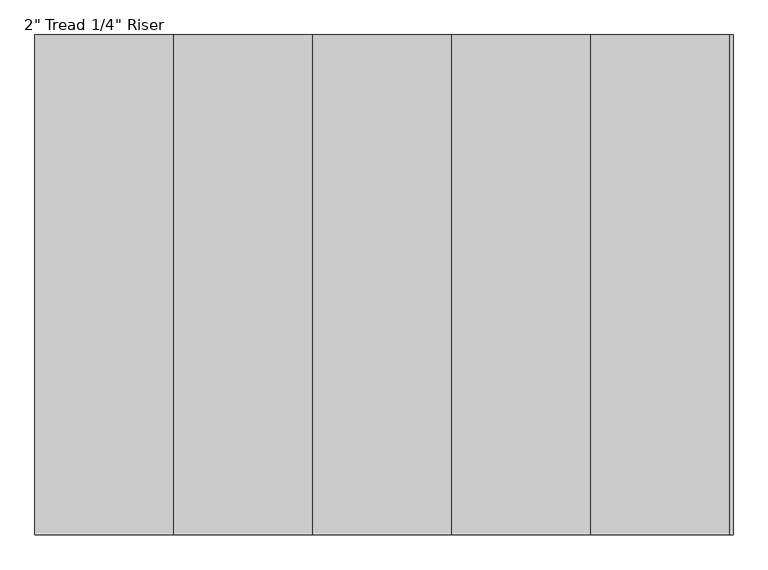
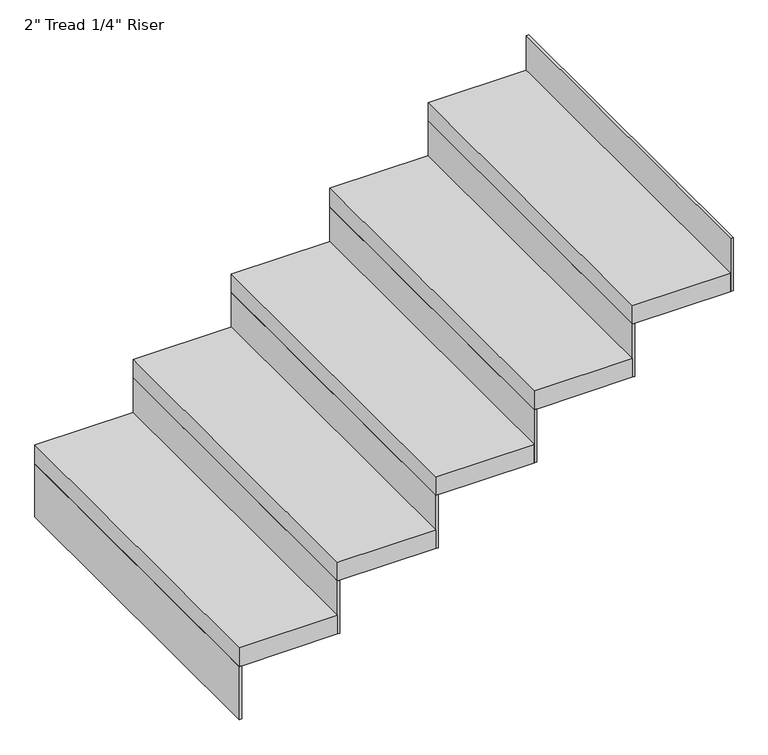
"""IFC4 building model written with IfcOpenShell, lengths in millimetres: stair flight geometry."""

from ifc_helpers import new_model, si_unit, frame, origin, place, context, project, spatial, polyline, outline, extrude, source, transform, mapped, element, save


def stair_flight_b01917b2(model_context):
    return source(origin(), model_context, "Body", "SweptSolid", [
        extrude(outline(polyline([(162833.3711992, -18859.8846057), (162827.0211992, -18859.8846057), (162827.0211992, -17945.4846057), (162833.3711992, -17945.4846057), (162833.3711992, -18859.8846057)])), frame((0.0, 0.0, 2126.3428571), z_axis=(0.0, 0.0, 1.0), x_axis=(1.0, 0.0, 0.0)), (0.0, 0.0, 1.0), 145.1428571),
        extrude(outline(polyline([(163081.0211992, -17945.4846057), (163081.0211992, -18859.8846057), (162827.0211992, -18859.8846057), (162827.0211992, -17945.4846057), (163081.0211992, -17945.4846057)])), frame((0.0, 0.0, 2271.4857143), z_axis=(0.0, 0.0, 1.0), x_axis=(1.0, 0.0, 0.0)), (0.0, 0.0, 1.0), 50.8),
        extrude(outline(polyline([(163087.3711992, -18859.8846057), (163081.0211992, -18859.8846057), (163081.0211992, -17945.4846057), (163087.3711992, -17945.4846057), (163087.3711992, -18859.8846057)])), frame((0.0, 0.0, 2271.4857143), z_axis=(0.0, 0.0, 1.0), x_axis=(1.0, 0.0, 0.0)), (0.0, 0.0, 1.0), 145.1428571),
        extrude(outline(polyline([(163335.0211992, -17945.4846057), (163335.0211992, -18859.8846057), (163081.0211992, -18859.8846057), (163081.0211992, -17945.4846057), (163335.0211992, -17945.4846057)])), frame((0.0, 0.0, 2416.6285714), z_axis=(0.0, 0.0, 1.0), x_axis=(1.0, 0.0, 0.0)), (0.0, 0.0, 1.0), 50.8),
        extrude(outline(polyline([(163341.3711992, -18859.8846057), (163335.0211992, -18859.8846057), (163335.0211992, -17945.4846057), (163341.3711992, -17945.4846057), (163341.3711992, -18859.8846057)])), frame((0.0, 0.0, 2416.6285714), z_axis=(0.0, 0.0, 1.0), x_axis=(1.0, 0.0, 0.0)), (0.0, 0.0, 1.0), 145.1428571),
        extrude(outline(polyline([(163589.0211992, -17945.4846057), (163589.0211992, -18859.8846057), (163335.0211992, -18859.8846057), (163335.0211992, -17945.4846057), (163589.0211992, -17945.4846057)])), frame((0.0, 0.0, 2561.7714286), z_axis=(0.0, 0.0, 1.0), x_axis=(1.0, 0.0, 0.0)), (0.0, 0.0, 1.0), 50.8),
        extrude(outline(polyline([(163595.3711992, -18859.8846057), (163589.0211992, -18859.8846057), (163589.0211992, -17945.4846057), (163595.3711992, -17945.4846057), (163595.3711992, -18859.8846057)])), frame((0.0, 0.0, 2561.7714286), z_axis=(0.0, 0.0, 1.0), x_axis=(1.0, 0.0, 0.0)), (0.0, 0.0, 1.0), 145.1428571),
        extrude(outline(polyline([(163843.0211992, -17945.4846057), (163843.0211992, -18859.8846057), (163589.0211992, -18859.8846057), (163589.0211992, -17945.4846057), (163843.0211992, -17945.4846057)])), frame((0.0, 0.0, 2706.9142857), z_axis=(0.0, 0.0, 1.0), x_axis=(1.0, 0.0, 0.0)), (0.0, 0.0, 1.0), 50.8),
        extrude(outline(polyline([(163849.3711992, -18859.8846057), (163843.0211992, -18859.8846057), (163843.0211992, -17945.4846057), (163849.3711992, -17945.4846057), (163849.3711992, -18859.8846057)])), frame((0.0, 0.0, 2706.9142857), z_axis=(0.0, 0.0, 1.0), x_axis=(1.0, 0.0, 0.0)), (0.0, 0.0, 1.0), 145.1428571),
        extrude(outline(polyline([(164103.3711992, -18859.8846057), (164097.0211992, -18859.8846057), (164097.0211992, -17945.4846057), (164103.3711992, -17945.4846057), (164103.3711992, -18859.8846057)])), frame((0.0, 0.0, 2852.0571429), z_axis=(0.0, 0.0, 1.0), x_axis=(1.0, 0.0, 0.0)), (0.0, 0.0, 1.0), 145.1428571),
        extrude(outline(polyline([(164097.0211992, -17945.4846057), (164097.0211992, -18859.8846057), (163843.0211992, -18859.8846057), (163843.0211992, -17945.4846057), (164097.0211992, -17945.4846057)])), frame((0.0, 0.0, 2852.0571429), z_axis=(0.0, 0.0, 1.0), x_axis=(1.0, 0.0, 0.0)), (0.0, 0.0, 1.0), 50.8),
    ])


if __name__ == "__main__":
    model = new_model("IFC4")
    model_context = context("Model", 3, world=origin())
    ifc_project = project(units=[si_unit("LENGTHUNIT", "METRE", prefix="MILLI")], contexts=[model_context])
    site = spatial("IfcSite", under=ifc_project)
    building = spatial("IfcBuilding", under=site)
    placement = place(None, origin())
    stair_flight_shape = stair_flight_b01917b2(model_context)
    element("IfcStairFlight", 1, ObjectType="2\" Tread 1/4\" Riser", at=placement, inside=building, context=model_context, shape_type="MappedRepresentation", body=[
        mapped(stair_flight_shape, transform((0.0, 0.0, 0.0), x_axis=(1.0, 0.0, 0.0), y_axis=(0.0, 1.0, 0.0), z_axis=(0.0, 0.0, 1.0))),
    ])
    save(model, "model.ifc")
